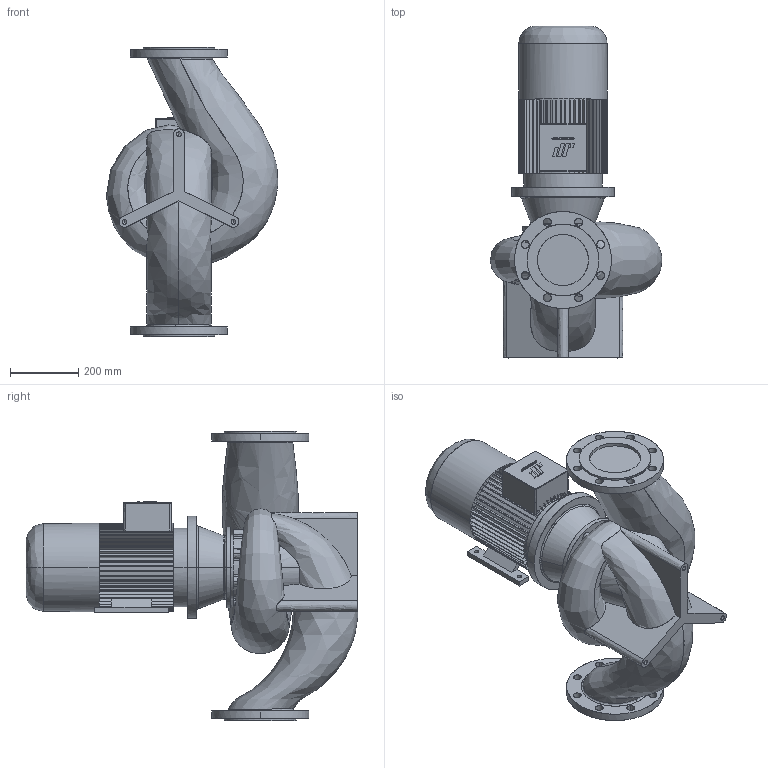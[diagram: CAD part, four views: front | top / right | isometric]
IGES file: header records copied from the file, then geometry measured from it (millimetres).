
Start section: CombiLine
Global section: file name: CLB_150-125_IEC1132M_ND10.igs; native system:  By UGS Corp.; preprocessor: XPlus GENERIC/IGES 3.0; author: Stageplaats; organization: Johnson Pump Water B.V.; date: 20070718.093848; units: millimetre
Bounding box: 503.93 x 975 x 850 mm (x, y, z)
Surface area: 2302182.4 mm2 (no closed solid volume)
Topology: 0 solids, 0 shells, 589 faces, 3567 edges, 3561 vertices
Faces by surface type: bspline 589
